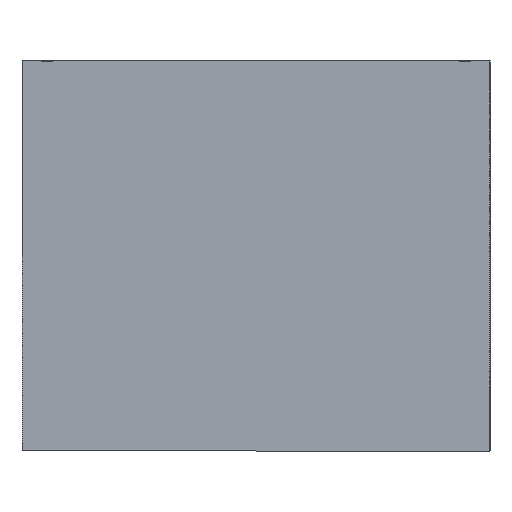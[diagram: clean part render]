
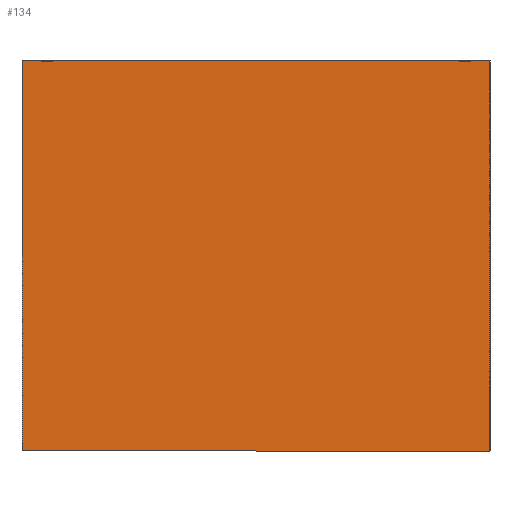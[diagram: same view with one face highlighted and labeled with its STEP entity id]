
A CAD part, left-side view. The second image highlights one B-rep face of the part: STEP entity #134.
In plain terms, the highlighted planar face has unit normal (-1, 0, 0).
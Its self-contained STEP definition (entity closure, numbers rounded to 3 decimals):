
#134=ADVANCED_FACE('',(#351),#353,.T.);
#351=FACE_BOUND('',#352,.T.);
#352=EDGE_LOOP('',(#521,#522,#523,#524));
#353=PLANE('',#354);
#354=AXIS2_PLACEMENT_3D('',#355,#356,#357);
#355=CARTESIAN_POINT('',(-144.,-60.,0.));
#356=DIRECTION('',(-1.,0.,0.));
#357=DIRECTION('',(0.,0.,1.));
#521=ORIENTED_EDGE('',*,*,#589,.T.);
#522=ORIENTED_EDGE('',*,*,#583,.T.);
#523=ORIENTED_EDGE('',*,*,#605,.F.);
#524=ORIENTED_EDGE('',*,*,#614,.F.);
#583=EDGE_CURVE('',#639,#644,#646,.T.);
#589=EDGE_CURVE('',#657,#639,#658,.T.);
#605=EDGE_CURVE('',#684,#644,#686,.T.);
#614=EDGE_CURVE('',#657,#684,#700,.T.);
#639=VERTEX_POINT('',#742);
#644=VERTEX_POINT('',#751);
#646=LINE('',#755,#756);
#657=VERTEX_POINT('',#782);
#658=LINE('',#783,#784);
#684=VERTEX_POINT('',#841);
#686=LINE('',#845,#846);
#700=LINE('',#878,#879);
#742=CARTESIAN_POINT('',(-144.,-60.,50.));
#751=CARTESIAN_POINT('',(-144.,0.,50.));
#755=CARTESIAN_POINT('',(-144.,-60.,50.));
#756=VECTOR('',#757,1.);
#757=DIRECTION('',(0.,1.,0.));
#782=CARTESIAN_POINT('',(-144.,-60.,0.));
#783=CARTESIAN_POINT('',(-144.,-60.,0.));
#784=VECTOR('',#785,1.);
#785=DIRECTION('',(0.,0.,1.));
#841=CARTESIAN_POINT('',(-144.,0.,0.));
#845=CARTESIAN_POINT('',(-144.,0.,0.));
#846=VECTOR('',#847,1.);
#847=DIRECTION('',(0.,0.,1.));
#878=CARTESIAN_POINT('',(-144.,-60.,0.));
#879=VECTOR('',#880,1.);
#880=DIRECTION('',(0.,1.,0.));
